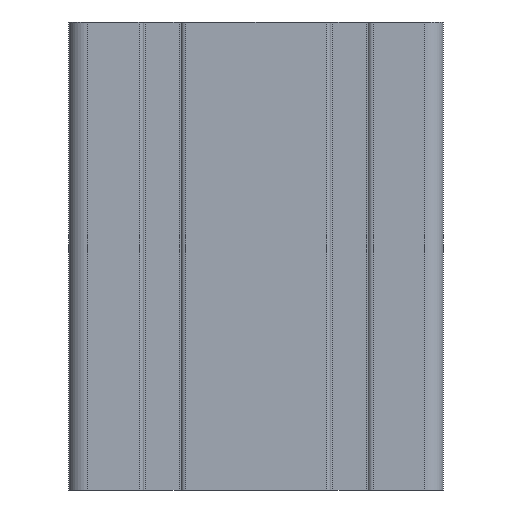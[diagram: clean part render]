
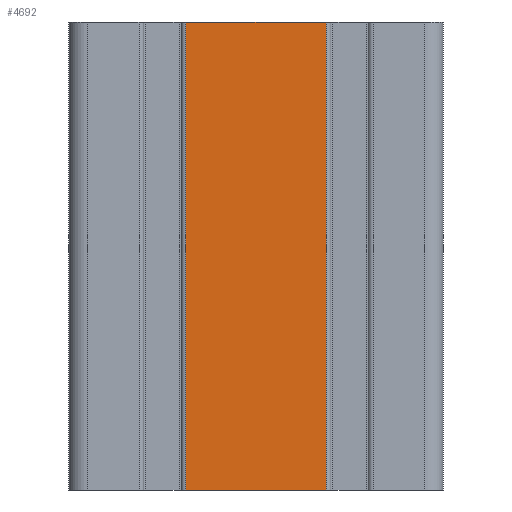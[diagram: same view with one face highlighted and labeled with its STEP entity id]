
A CAD part, front view. The second image highlights one B-rep face of the part: STEP entity #4692.
In plain terms, the highlighted planar face has unit normal (0, -1, 0).
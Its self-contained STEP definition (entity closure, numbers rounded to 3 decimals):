
#134=PLANE('',#5139);
#356=FACE_OUTER_BOUND('',#592,.T.);
#592=EDGE_LOOP('',(#3788,#3789,#3790,#3791));
#1044=LINE('',#7844,#1508);
#1045=LINE('',#7847,#1509);
#1046=LINE('',#7849,#1510);
#1047=LINE('',#7850,#1511);
#1508=VECTOR('',#6435,100.);
#1509=VECTOR('',#6438,30.);
#1510=VECTOR('',#6439,30.);
#1511=VECTOR('',#6440,100.);
#2212=VERTEX_POINT('',#7840);
#2213=VERTEX_POINT('',#7842);
#2214=VERTEX_POINT('',#7846);
#2215=VERTEX_POINT('',#7848);
#2884=EDGE_CURVE('',#2212,#2213,#1044,.T.);
#2885=EDGE_CURVE('',#2214,#2212,#1045,.T.);
#2886=EDGE_CURVE('',#2215,#2213,#1046,.T.);
#2887=EDGE_CURVE('',#2214,#2215,#1047,.T.);
#3788=ORIENTED_EDGE('',*,*,#2885,.T.);
#3789=ORIENTED_EDGE('',*,*,#2884,.T.);
#3790=ORIENTED_EDGE('',*,*,#2886,.F.);
#3791=ORIENTED_EDGE('',*,*,#2887,.F.);
#4692=ADVANCED_FACE('',(#356),#134,.T.);
#5139=AXIS2_PLACEMENT_3D('',#7845,#6436,#6437);
#6435=DIRECTION('',(0.,0.,1.));
#6436=DIRECTION('center_axis',(0.,-1.,0.));
#6437=DIRECTION('ref_axis',(1.,0.,0.));
#6438=DIRECTION('',(1.,0.,0.));
#6439=DIRECTION('',(1.,0.,0.));
#6440=DIRECTION('',(0.,0.,1.));
#7840=CARTESIAN_POINT('',(15.,-20.,0.));
#7842=CARTESIAN_POINT('',(15.,-20.,100.));
#7844=CARTESIAN_POINT('',(15.,-20.,0.));
#7845=CARTESIAN_POINT('Origin',(-15.,-20.,0.));
#7846=CARTESIAN_POINT('',(-15.,-20.,0.));
#7847=CARTESIAN_POINT('',(-15.,-20.,0.));
#7848=CARTESIAN_POINT('',(-15.,-20.,100.));
#7849=CARTESIAN_POINT('',(-15.,-20.,100.));
#7850=CARTESIAN_POINT('',(-15.,-20.,0.));
